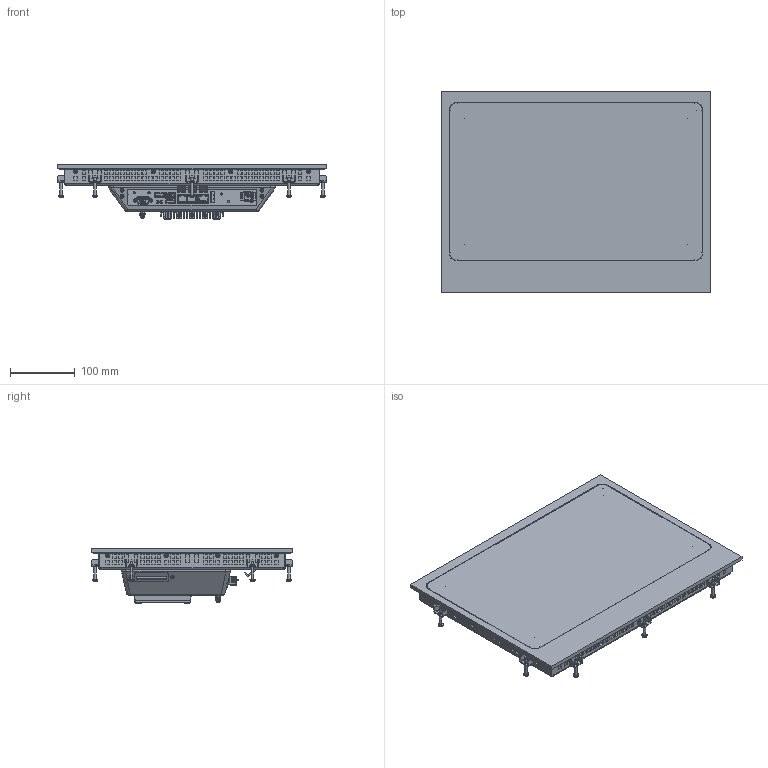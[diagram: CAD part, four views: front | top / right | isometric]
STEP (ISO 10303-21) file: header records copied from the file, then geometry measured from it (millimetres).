
FILE_DESCRIPTION(/* description */ (''),/* implementation_level */ '2;1');
FILE_NAME(/* name */ 'D:\Modelle vereinfacht\notion.S\778-11988-00\Baugruppe17_Shrinkwrap_1.stp',/* time_stamp */ '2025-01-22T09:45:07+01:00',/* author */ ('Blessing'),/* organization */ (''),/* preprocessor_version */ 'ST-DEVELOPER v18.1',/* originating_system */ 'Autodesk Inventor 2021',/* authorisation */ '');
FILE_SCHEMA (('AUTOMOTIVE_DESIGN { 1 0 10303 214 3 1 1 }'));
Products named in the file (1): Baugruppe17_Shrinkwrap_1
Bounding box: 415 x 310 x 84 mm (x, y, z)
Volume: 5191966.3 mm3; surface area: 433154.6 mm2
Topology: 1 solids, 25 shells, 10438 faces, 29655 edges, 19400 vertices
Faces by surface type: plane 6488, cylinder 2243, bspline 1216, cone 370, torus 90, sphere 31
Full cylindrical faces by diameter (mm): 0.457 x1, 0.85 x1, 2 x1, 2.156 x2, 3 x5, 3.01 x5, 3.242 x9, 4 x24, 4.3 x2, 5.54 x34, 6 x1, 6.5 x2
Entity records: 379174 total; most frequent: CARTESIAN_POINT 104877, ORIENTED_EDGE 57679, DIRECTION 49565, EDGE_CURVE 29571, LINE 20655, VECTOR 20655, VERTEX_POINT 19424, AXIS2_PLACEMENT_3D 14455
